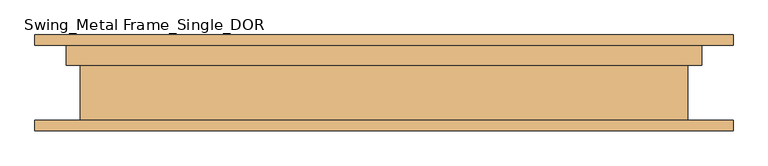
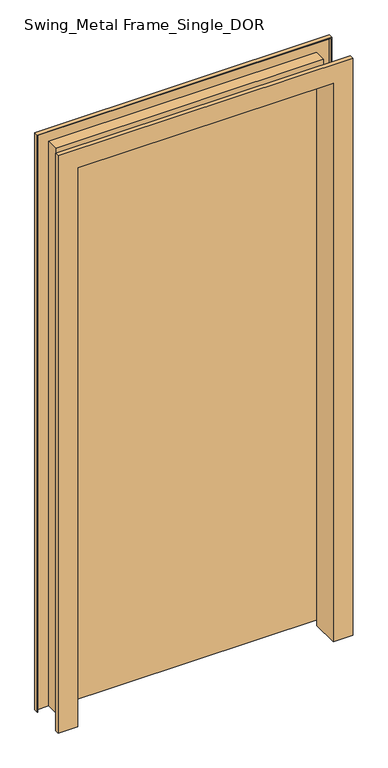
"""IFC4 building model written with IfcOpenShell, lengths in millimetres: door geometry, Swing_Metal Frame_Single_DOR : 2040h x 920 (2110x1020 STUD)."""

from ifc_helpers import new_model, si_unit, frame, origin, place, context, project, spatial, polyline, outline, extrude, faceted_brep, source, transform, mapped, element, save


def swing_metal_frame_single_dor_23685e93(model_context):
    return source(origin(), model_context, "Body", "SolidModel", [
        extrude(outline(polyline([(460.0, 70.0), (460.0, 30.0), (-460.0, 30.0), (-460.0, 70.0), (460.0, 70.0)])), frame((0.0, 0.0, 20.0), z_axis=(0.0, 0.0, 1.0), x_axis=(1.0, 0.0, 0.0)), (0.0, 0.0, 1.0), 2040.0),
        faceted_brep([(-510.0, -70.0, 0.0), (-510.0, -55.0, 0.0), (-508.0, -55.0, 0.0), (-508.0, -68.0, 0.0), (-444.0, -68.0, 0.0), (-444.0, 26.0, 0.0), (-464.0, 26.0, 0.0), (-464.0, 68.0, 0.0), (-508.0, 68.0, 0.0), (-508.0, 55.0, 0.0), (-510.0, 55.0, 0.0), (-510.0, 70.0, 0.0), (-462.0, 70.0, 0.0), (-462.0, 28.0, 0.0), (-442.0, 28.0, 0.0), (-442.0, -70.0, 0.0), (-510.0, -70.0, 2110.0), (-510.0, -55.0, 2110.0), (510.0, -55.0, 2110.0), (510.0, -55.0, 0.0), (508.0, -55.0, 0.0), (508.0, -55.0, 2108.0), (-508.0, -55.0, 2108.0), (-508.0, -68.0, 2108.0), (508.0, -68.0, 2108.0), (508.0, -68.0, 0.0), (444.0, -68.0, 0.0), (444.0, -68.0, 2044.0), (-444.0, -68.0, 2044.0), (-444.0, 26.0, 2044.0), (444.0, 26.0, 2044.0), (444.0, 26.0, 0.0), (464.0, 26.0, 0.0), (464.0, 26.0, 2064.0), (-464.0, 26.0, 2064.0), (-464.0, 68.0, 2064.0), (464.0, 68.0, 2064.0), (464.0, 68.0, 0.0), (508.0, 68.0, 0.0), (508.0, 68.0, 2108.0), (-508.0, 68.0, 2108.0), (-508.0, 55.0, 2108.0), (508.0, 55.0, 2108.0), (508.0, 55.0, 0.0), (510.0, 55.0, 0.0), (510.0, 55.0, 2110.0), (-510.0, 55.0, 2110.0), (-510.0, 70.0, 2110.0), (510.0, 70.0, 2110.0), (510.0, 70.0, 0.0), (462.0, 70.0, 0.0), (462.0, 70.0, 2062.0), (-462.0, 70.0, 2062.0), (-462.0, 28.0, 2062.0), (462.0, 28.0, 2062.0), (462.0, 28.0, 0.0), (442.0, 28.0, 0.0), (442.0, 28.0, 2042.0), (-442.0, 28.0, 2042.0), (-442.0, -70.0, 2042.0), (442.0, -70.0, 2042.0), (442.0, -70.0, 0.0), (510.0, -70.0, 0.0), (510.0, -70.0, 2110.0)], [[[0, 1, 2, 3, 4, 5, 6, 7, 8, 9, 10, 11, 12, 13, 14, 15]], [[1, 0, 16, 17]], [[2, 1, 17, 18, 19, 20, 21, 22]], [[3, 2, 22, 23]], [[4, 3, 23, 24, 25, 26, 27, 28]], [[5, 4, 28, 29]], [[6, 5, 29, 30, 31, 32, 33, 34]], [[7, 6, 34, 35]], [[8, 7, 35, 36, 37, 38, 39, 40]], [[9, 8, 40, 41]], [[10, 9, 41, 42, 43, 44, 45, 46]], [[11, 10, 46, 47]], [[12, 11, 47, 48, 49, 50, 51, 52]], [[13, 12, 52, 53]], [[14, 13, 53, 54, 55, 56, 57, 58]], [[15, 14, 58, 59]], [[0, 15, 59, 60, 61, 62, 63, 16]], [[18, 63, 62, 19]], [[62, 61, 56, 55, 50, 49, 44, 43, 38, 37, 32, 31, 26, 25, 20, 19]], [[24, 21, 20, 25]], [[30, 27, 26, 31]], [[36, 33, 32, 37]], [[42, 39, 38, 43]], [[48, 45, 44, 49]], [[54, 51, 50, 55]], [[60, 57, 56, 61]], [[17, 16, 63, 18]], [[23, 22, 21, 24]], [[29, 28, 27, 30]], [[35, 34, 33, 36]], [[41, 40, 39, 42]], [[47, 46, 45, 48]], [[53, 52, 51, 54]], [[59, 58, 57, 60]]]),
    ])


if __name__ == "__main__":
    model = new_model("IFC4")
    model_context = context("Model", 3, world=origin())
    ifc_project = project(units=[si_unit("LENGTHUNIT", "METRE", prefix="MILLI")], contexts=[model_context])
    site = spatial("IfcSite", under=ifc_project)
    building = spatial("IfcBuilding", under=site)
    placement = place(None, origin())
    swing_metal_frame_single_dor_shape = swing_metal_frame_single_dor_23685e93(model_context)
    element("IfcDoor", 1, ObjectType="Swing_Metal Frame_Single_DOR : 2040h x 920 (2110x1020 STUD)", at=placement, inside=building, context=model_context, shape_type="MappedRepresentation", body=[
        mapped(swing_metal_frame_single_dor_shape, transform((0.0, 0.0, 0.0), x_axis=(1.0, 0.0, 0.0), y_axis=(0.0, 1.0, 0.0), z_axis=(0.0, 0.0, 1.0))),
    ])
    save(model, "model.ifc")
